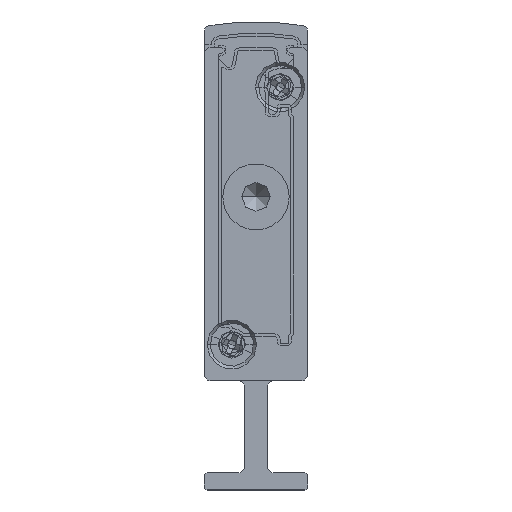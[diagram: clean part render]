
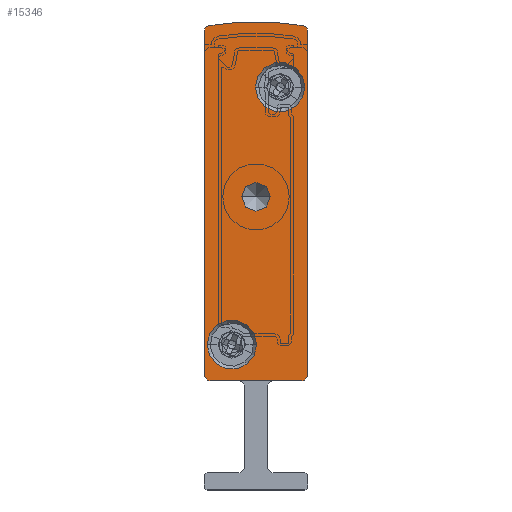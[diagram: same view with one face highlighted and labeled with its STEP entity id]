
A CAD part, front view. The second image highlights one B-rep face of the part: STEP entity #15346.
In plain terms, the highlighted planar face has unit normal (0, -1, 0).
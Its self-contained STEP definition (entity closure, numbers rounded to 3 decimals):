
#431 = CARTESIAN_POINT ( 'NONE',  ( 0., -2.5, 39.902 ) ) ;
#439 = DIRECTION ( 'NONE',  ( -1., 0., 0. ) ) ;
#631 = DIRECTION ( 'NONE',  ( 0., 1., 0. ) ) ;
#675 = ORIENTED_EDGE ( 'NONE', *, *, #15544, .F. ) ;
#713 = DIRECTION ( 'NONE',  ( -1., 0., 0. ) ) ;
#773 = CARTESIAN_POINT ( 'NONE',  ( 8.5, -2.5, 10. ) ) ;
#924 = EDGE_CURVE ( 'NONE', #20283, #2929, #13937, .T. ) ;
#1212 = DIRECTION ( 'NONE',  ( -1., 0., 0. ) ) ;
#1554 = CARTESIAN_POINT ( 'NONE',  ( 0.5, -2.5, 9.5 ) ) ;
#2088 = CIRCLE ( 'NONE', #28616, 2.15 ) ;
#2886 = CARTESIAN_POINT ( 'NONE',  ( 0.408, -2.5, 40.393 ) ) ;
#2929 = VERTEX_POINT ( 'NONE', #26882 ) ;
#3176 = VERTEX_POINT ( 'NONE', #2886 ) ;
#3674 = CARTESIAN_POINT ( 'NONE',  ( 3.25, -2.5, 25.5 ) ) ;
#3719 = CARTESIAN_POINT ( 'NONE',  ( 6.6, -2.5, 35.05 ) ) ;
#3919 = VERTEX_POINT ( 'NONE', #3674 ) ;
#5249 = ORIENTED_EDGE ( 'NONE', *, *, #10358, .F. ) ;
#5460 = DIRECTION ( 'NONE',  ( -1., 0., 0. ) ) ;
#6167 = CIRCLE ( 'NONE', #9901, 2.15 ) ;
#6739 = CARTESIAN_POINT ( 'NONE',  ( 8.5, -2.5, 39.902 ) ) ;
#7354 = DIRECTION ( 'NONE',  ( 0., 1., 0. ) ) ;
#7526 = AXIS2_PLACEMENT_3D ( 'NONE', #10975, #631, #26530 ) ;
#7587 = ORIENTED_EDGE ( 'NONE', *, *, #24298, .F. ) ;
#7709 = ORIENTED_EDGE ( 'NONE', *, *, #33287, .F. ) ;
#7801 = FACE_BOUND ( 'NONE', #19165, .T. ) ;
#8414 = ORIENTED_EDGE ( 'NONE', *, *, #19906, .F. ) ;
#9341 = DIRECTION ( 'NONE',  ( -1., 0., 0. ) ) ;
#9383 = ORIENTED_EDGE ( 'NONE', *, *, #25661, .T. ) ;
#9439 = EDGE_CURVE ( 'NONE', #25176, #23385, #24039, .T. ) ;
#9787 = CARTESIAN_POINT ( 'NONE',  ( 8.5, -2.5, 9.5 ) ) ;
#9901 = AXIS2_PLACEMENT_3D ( 'NONE', #14343, #24421, #11741 ) ;
#10358 = EDGE_CURVE ( 'NONE', #31572, #29777, #30477, .T. ) ;
#10684 = AXIS2_PLACEMENT_3D ( 'NONE', #26682, #29512, #1212 ) ;
#10734 = DIRECTION ( 'NONE',  ( -1., 0., 0. ) ) ;
#10773 = DIRECTION ( 'NONE',  ( -1., 0., 0. ) ) ;
#10975 = CARTESIAN_POINT ( 'NONE',  ( 0.5, -2.5, 39.902 ) ) ;
#11416 = VERTEX_POINT ( 'NONE', #15767 ) ;
#11741 = DIRECTION ( 'NONE',  ( 1., 0., 0. ) ) ;
#12283 = CARTESIAN_POINT ( 'NONE',  ( 4.55, -2.5, 12.65 ) ) ;
#12296 = LINE ( 'NONE', #16089, #25646 ) ;
#12623 = CIRCLE ( 'NONE', #20453, 0.5 ) ;
#12990 = CARTESIAN_POINT ( 'NONE',  ( 5.75, -2.5, 25.5 ) ) ;
#13251 = PLANE ( 'NONE',  #7526 ) ;
#13862 = DIRECTION ( 'NONE',  ( 0., 0., 1. ) ) ;
#13886 = CIRCLE ( 'NONE', #29829, 1.25 ) ;
#13895 = EDGE_CURVE ( 'NONE', #24537, #25176, #12623, .T. ) ;
#13937 = CIRCLE ( 'NONE', #19315, 0.5 ) ;
#14097 = EDGE_CURVE ( 'NONE', #16528, #3176, #25497, .T. ) ;
#14343 = CARTESIAN_POINT ( 'NONE',  ( 6.6, -2.5, 35.05 ) ) ;
#14438 = VERTEX_POINT ( 'NONE', #18013 ) ;
#14561 = LINE ( 'NONE', #29318, #17012 ) ;
#15255 = DIRECTION ( 'NONE',  ( 0., 1., 0. ) ) ;
#15334 = DIRECTION ( 'NONE',  ( 0., -1., 0. ) ) ;
#15346 = ADVANCED_FACE ( 'NONE', ( #23598, #7801, #25972, #32827 ), #13251, .F. ) ;
#15367 = ORIENTED_EDGE ( 'NONE', *, *, #14097, .F. ) ;
#15544 = EDGE_CURVE ( 'NONE', #11416, #14438, #6167, .T. ) ;
#15767 = CARTESIAN_POINT ( 'NONE',  ( 4.45, -2.5, 35.05 ) ) ;
#16089 = CARTESIAN_POINT ( 'NONE',  ( 9., -2.5, 39.902 ) ) ;
#16159 = EDGE_CURVE ( 'NONE', #23489, #16528, #14561, .T. ) ;
#16527 = DIRECTION ( 'NONE',  ( 0., 0., -1. ) ) ;
#16528 = VERTEX_POINT ( 'NONE', #431 ) ;
#16610 = EDGE_CURVE ( 'NONE', #3176, #20283, #22627, .T. ) ;
#17012 = VECTOR ( 'NONE', #13862, 1000. ) ;
#17115 = VERTEX_POINT ( 'NONE', #12990 ) ;
#17122 = ORIENTED_EDGE ( 'NONE', *, *, #23531, .T. ) ;
#17495 = AXIS2_PLACEMENT_3D ( 'NONE', #26880, #29736, #32274 ) ;
#17667 = CIRCLE ( 'NONE', #20061, 2.15 ) ;
#18009 = CARTESIAN_POINT ( 'NONE',  ( 4.5, -2.5, 25.5 ) ) ;
#18013 = CARTESIAN_POINT ( 'NONE',  ( 8.75, -2.5, 35.05 ) ) ;
#18341 = AXIS2_PLACEMENT_3D ( 'NONE', #24965, #7354, #10734 ) ;
#19165 = EDGE_LOOP ( 'NONE', ( #23900, #5249 ) ) ;
#19290 = DIRECTION ( 'NONE',  ( 1., 0., 0. ) ) ;
#19315 = AXIS2_PLACEMENT_3D ( 'NONE', #6739, #30135, #9341 ) ;
#19849 = EDGE_LOOP ( 'NONE', ( #17122, #9383 ) ) ;
#19906 = EDGE_CURVE ( 'NONE', #23385, #23489, #20730, .T. ) ;
#20061 = AXIS2_PLACEMENT_3D ( 'NONE', #30801, #15334, #31570 ) ;
#20174 = ORIENTED_EDGE ( 'NONE', *, *, #924, .F. ) ;
#20283 = VERTEX_POINT ( 'NONE', #30816 ) ;
#20369 = CARTESIAN_POINT ( 'NONE',  ( 9., -2.5, 10. ) ) ;
#20453 = AXIS2_PLACEMENT_3D ( 'NONE', #773, #29067, #439 ) ;
#20730 = CIRCLE ( 'NONE', #25512, 0.5 ) ;
#20736 = EDGE_LOOP ( 'NONE', ( #15367, #23577, #8414, #31205, #24474, #7587, #20174, #29209 ) ) ;
#20981 = DIRECTION ( 'NONE',  ( 0., 1., 0. ) ) ;
#22627 = CIRCLE ( 'NONE', #23919, 23.658 ) ;
#22982 = EDGE_CURVE ( 'NONE', #29777, #31572, #17667, .T. ) ;
#23351 = CARTESIAN_POINT ( 'NONE',  ( 4.5, -2.5, 17.092 ) ) ;
#23385 = VERTEX_POINT ( 'NONE', #1554 ) ;
#23489 = VERTEX_POINT ( 'NONE', #30406 ) ;
#23531 = EDGE_CURVE ( 'NONE', #3919, #17115, #13886, .T. ) ;
#23577 = ORIENTED_EDGE ( 'NONE', *, *, #16159, .F. ) ;
#23598 = FACE_BOUND ( 'NONE', #28014, .T. ) ;
#23900 = ORIENTED_EDGE ( 'NONE', *, *, #22982, .F. ) ;
#23919 = AXIS2_PLACEMENT_3D ( 'NONE', #23351, #20981, #10773 ) ;
#24039 = LINE ( 'NONE', #24165, #30466 ) ;
#24165 = CARTESIAN_POINT ( 'NONE',  ( 0.5, -2.5, 9.5 ) ) ;
#24238 = CIRCLE ( 'NONE', #18341, 1.25 ) ;
#24276 = DIRECTION ( 'NONE',  ( 0., 1., 0. ) ) ;
#24298 = EDGE_CURVE ( 'NONE', #2929, #24537, #12296, .T. ) ;
#24421 = DIRECTION ( 'NONE',  ( 0., -1., 0. ) ) ;
#24474 = ORIENTED_EDGE ( 'NONE', *, *, #13895, .F. ) ;
#24537 = VERTEX_POINT ( 'NONE', #20369 ) ;
#24781 = DIRECTION ( 'NONE',  ( 0., -1., 0. ) ) ;
#24965 = CARTESIAN_POINT ( 'NONE',  ( 4.5, -2.5, 25.5 ) ) ;
#25176 = VERTEX_POINT ( 'NONE', #9787 ) ;
#25497 = CIRCLE ( 'NONE', #10684, 0.5 ) ;
#25512 = AXIS2_PLACEMENT_3D ( 'NONE', #31595, #24276, #713 ) ;
#25646 = VECTOR ( 'NONE', #16527, 1000. ) ;
#25661 = EDGE_CURVE ( 'NONE', #17115, #3919, #24238, .T. ) ;
#25972 = FACE_OUTER_BOUND ( 'NONE', #20736, .T. ) ;
#26530 = DIRECTION ( 'NONE',  ( -1., 0., 0. ) ) ;
#26682 = CARTESIAN_POINT ( 'NONE',  ( 0.5, -2.5, 39.902 ) ) ;
#26880 = CARTESIAN_POINT ( 'NONE',  ( 2.4, -2.5, 12.65 ) ) ;
#26882 = CARTESIAN_POINT ( 'NONE',  ( 9., -2.5, 39.902 ) ) ;
#27807 = CARTESIAN_POINT ( 'NONE',  ( 0.25, -2.5, 12.65 ) ) ;
#28014 = EDGE_LOOP ( 'NONE', ( #7709, #675 ) ) ;
#28616 = AXIS2_PLACEMENT_3D ( 'NONE', #3719, #24781, #19290 ) ;
#29067 = DIRECTION ( 'NONE',  ( 0., 1., 0. ) ) ;
#29209 = ORIENTED_EDGE ( 'NONE', *, *, #16610, .F. ) ;
#29318 = CARTESIAN_POINT ( 'NONE',  ( 0., -2.5, 39.902 ) ) ;
#29512 = DIRECTION ( 'NONE',  ( 0., 1., 0. ) ) ;
#29736 = DIRECTION ( 'NONE',  ( 0., -1., 0. ) ) ;
#29777 = VERTEX_POINT ( 'NONE', #12283 ) ;
#29829 = AXIS2_PLACEMENT_3D ( 'NONE', #18009, #15255, #5460 ) ;
#29899 = DIRECTION ( 'NONE',  ( -1., 0., 0. ) ) ;
#30135 = DIRECTION ( 'NONE',  ( 0., 1., 0. ) ) ;
#30406 = CARTESIAN_POINT ( 'NONE',  ( 0., -2.5, 10. ) ) ;
#30466 = VECTOR ( 'NONE', #29899, 1000. ) ;
#30477 = CIRCLE ( 'NONE', #17495, 2.15 ) ;
#30801 = CARTESIAN_POINT ( 'NONE',  ( 2.4, -2.5, 12.65 ) ) ;
#30816 = CARTESIAN_POINT ( 'NONE',  ( 8.592, -2.5, 40.393 ) ) ;
#31205 = ORIENTED_EDGE ( 'NONE', *, *, #9439, .F. ) ;
#31570 = DIRECTION ( 'NONE',  ( 1., 0., 0. ) ) ;
#31572 = VERTEX_POINT ( 'NONE', #27807 ) ;
#31595 = CARTESIAN_POINT ( 'NONE',  ( 0.5, -2.5, 10. ) ) ;
#32274 = DIRECTION ( 'NONE',  ( 1., 0., 0. ) ) ;
#32827 = FACE_BOUND ( 'NONE', #19849, .T. ) ;
#33287 = EDGE_CURVE ( 'NONE', #14438, #11416, #2088, .T. ) ;
